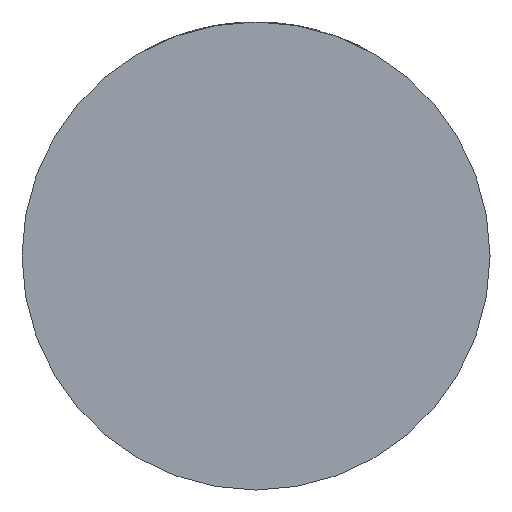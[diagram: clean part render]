
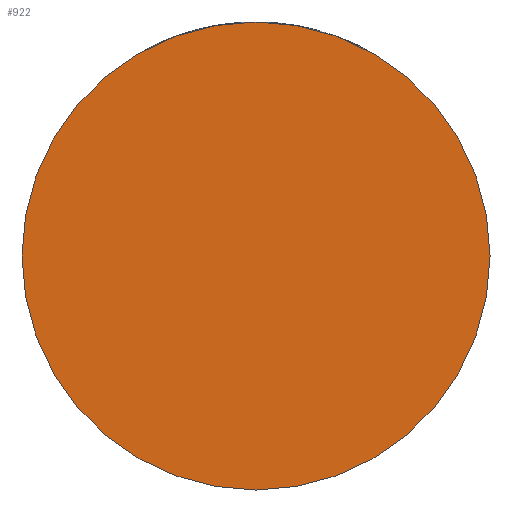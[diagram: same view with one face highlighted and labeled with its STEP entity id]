
A CAD part, front view. The second image highlights one B-rep face of the part: STEP entity #922.
In plain terms, the highlighted planar face has unit normal (0, -1, 0).
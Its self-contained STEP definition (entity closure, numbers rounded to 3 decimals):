
#76 = CIRCLE ( 'NONE', #2940, 39. ) ;
#106 = DIRECTION ( 'NONE',  ( 1., 0., 0. ) ) ;
#395 = FACE_OUTER_BOUND ( 'NONE', #1346, .T. ) ;
#400 = ORIENTED_EDGE ( 'NONE', *, *, #4354, .T. ) ;
#423 = AXIS2_PLACEMENT_3D ( 'NONE', #2302, #1977, #3845 ) ;
#692 = ORIENTED_EDGE ( 'NONE', *, *, #4704, .T. ) ;
#727 = DIRECTION ( 'NONE',  ( 0., -1., 0. ) ) ;
#739 = DIRECTION ( 'NONE',  ( 0., -1., 0. ) ) ;
#922 = ADVANCED_FACE ( 'NONE', ( #395 ), #2657, .T. ) ;
#1346 = EDGE_LOOP ( 'NONE', ( #400, #692 ) ) ;
#1977 = DIRECTION ( 'NONE',  ( 0., -1., 0. ) ) ;
#2302 = CARTESIAN_POINT ( 'NONE',  ( 0., -36., 0. ) ) ;
#2319 = CARTESIAN_POINT ( 'NONE',  ( 0., -36., 0. ) ) ;
#2546 = VERTEX_POINT ( 'NONE', #2760 ) ;
#2657 = PLANE ( 'NONE',  #4782 ) ;
#2760 = CARTESIAN_POINT ( 'NONE',  ( -39., -36., 0. ) ) ;
#2882 = VERTEX_POINT ( 'NONE', #4083 ) ;
#2940 = AXIS2_PLACEMENT_3D ( 'NONE', #2319, #739, #106 ) ;
#3774 = DIRECTION ( 'NONE',  ( 1., 0., 0. ) ) ;
#3845 = DIRECTION ( 'NONE',  ( 1., 0., 0. ) ) ;
#4083 = CARTESIAN_POINT ( 'NONE',  ( 39., -36., 0. ) ) ;
#4199 = CARTESIAN_POINT ( 'NONE',  ( 0., -36., 0. ) ) ;
#4354 = EDGE_CURVE ( 'NONE', #2546, #2882, #4869, .T. ) ;
#4704 = EDGE_CURVE ( 'NONE', #2882, #2546, #76, .T. ) ;
#4782 = AXIS2_PLACEMENT_3D ( 'NONE', #4199, #727, #3774 ) ;
#4869 = CIRCLE ( 'NONE', #423, 39. ) ;
